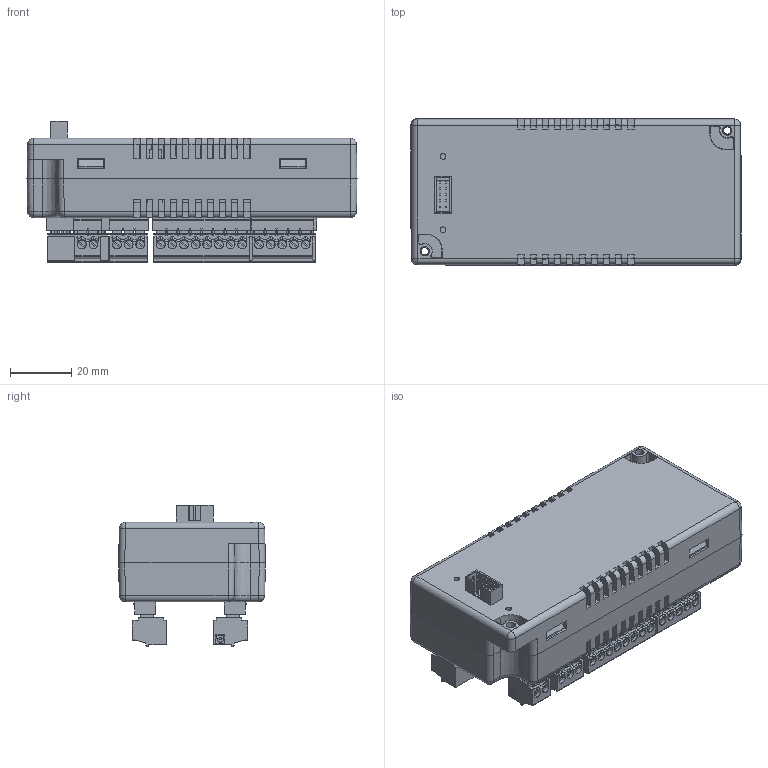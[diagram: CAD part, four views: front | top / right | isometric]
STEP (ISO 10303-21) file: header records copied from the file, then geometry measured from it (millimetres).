
FILE_DESCRIPTION (( 'STEP AP214' ), '1' );
FILE_NAME ('HMC3-M.STEP', '2024-01-03T17:46:38', ( '' ), ( '' ), 'SwSTEP 2.0', 'SolidWorks 2019', '' );
FILE_SCHEMA (( 'AUTOMOTIVE_DESIGN' ));
Length unit declared in the file: inch
Products named in the file (9): HMC3-M; HMC3-M.STEP; fpem-1212p-a0200l_03.STEP; fpem-1212p-a0200l_02.STEP; fpem-1212p-a0200l_06.STEP; fpem-1212p-a0200l_05.STEP; fpem-1212p-a0200l_04.STEP; fpem-1212p-a0200l_01.STEP; fpem-1212p-a0200l_07.STEP
Assembly tree (8 placements, depth 3):
  HMC3-M
    HMC3-M.STEP
      fpem-1212p-a0200l_01.STEP
      fpem-1212p-a0200l_02.STEP
      fpem-1212p-a0200l_03.STEP
      fpem-1212p-a0200l_04.STEP
      fpem-1212p-a0200l_05.STEP
      fpem-1212p-a0200l_06.STEP
      fpem-1212p-a0200l_07.STEP
Bounding box: 108 x 48 x 46.2 mm (x, y, z)
Volume: 142154.1 mm3; surface area: 44608.2 mm2
Topology: 7 solids, 24 shells, 5397 faces, 14298 edges, 9276 vertices
Faces by surface type: plane 3781, cylinder 1179, torus 182, cone 160, sphere 82, bspline 13
Entity records: 180611 total; most frequent: CARTESIAN_POINT 46400, ORIENTED_EDGE 28432, DIRECTION 26809, EDGE_CURVE 14216, VECTOR 10393, LINE 10393, VERTEX_POINT 9276, AXIS2_PLACEMENT_3D 8208
